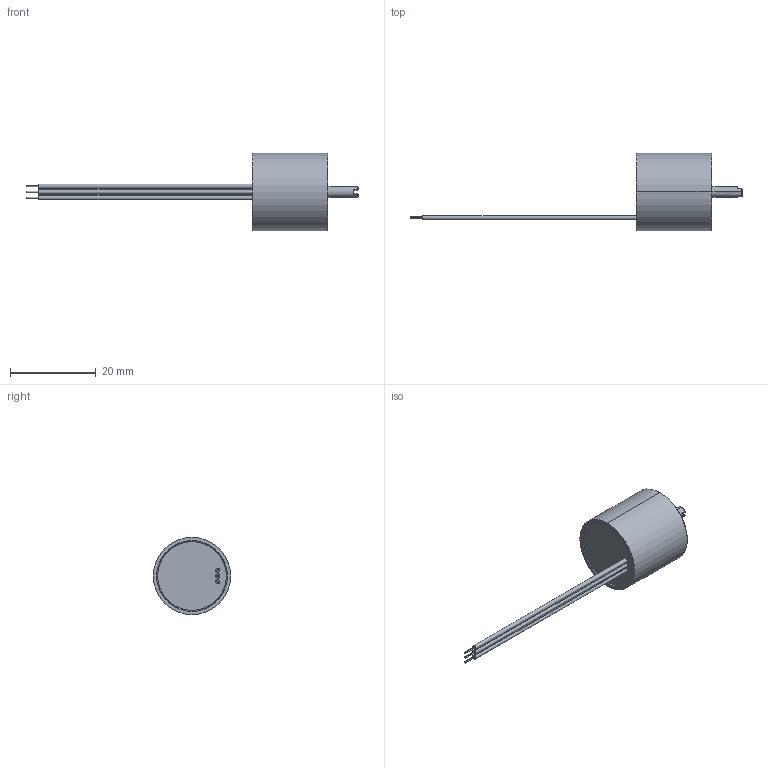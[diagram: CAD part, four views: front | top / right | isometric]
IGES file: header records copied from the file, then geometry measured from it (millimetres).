
Start section: SolidWorks IGES file using analytic representation for surfaces
Global section: file name: O:\08-Produkte_DatBlät&Beiblät&PrLi&Appl&Wettb\8-1 Megatron\8-1-11 Drehgeber\8-1-11-1 Datenblätter\MAB18_A\MAB18A.IGS; native system: SolidWorks 2007; preprocessor: SolidWorks 2007; author: AlessandroC; date: 101006.141524; units: millimetre
Bounding box: 77.4 x 18 x 18 mm (x, y, z)
Volume: 3585.7 mm3; surface area: 4896 mm2
Topology: 8 solids, 8 shells, 1058 faces, 2485 edges, 1397 vertices
Faces by surface type: revolution 577, bspline 255, plane 226
